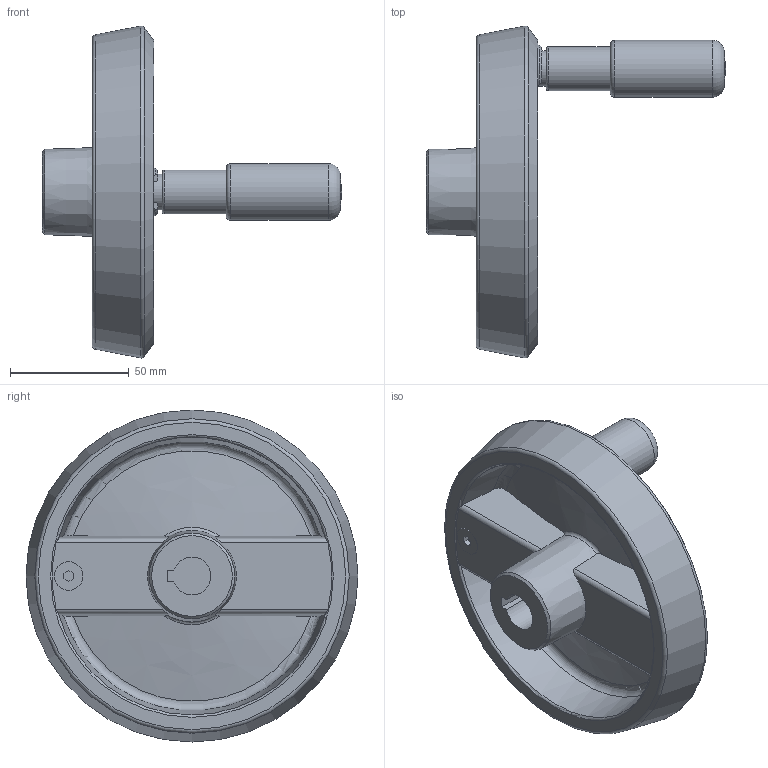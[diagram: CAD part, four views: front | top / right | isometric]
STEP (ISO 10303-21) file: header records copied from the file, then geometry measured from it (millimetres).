
FILE_DESCRIPTION( ( 'STEP AP203' ), '1' );
FILE_NAME( 'C:/Temp/Ganter_Step_05_03_2020/data/1_3/gn_923_7/gn_923_7_b/Handwheel with retractable handle GN 923.7-140-B16-R-SW (activated).stp', '2020-03-05T10:40:03', ( 'License CC BY-ND 4.0' ), ( 'CADENAS' ), ' ', 'PARTsolutions', ' ' );
FILE_SCHEMA( ( 'CONFIG_CONTROL_DESIGN' ) );
Length unit declared in the file: millimetre
Products named in the file (3): Handwheel with retractable handle GN 923.7-140-B16-R-SW (activated); _Umleggriff-Handrad GN 923.7-140-B16-R-SW-1; _Umleggriff-Handrad GN 923.7-140-B16-R-SW (90)-2
Assembly tree (2 placements, depth 2):
  Handwheel with retractable handle GN 923.7-140-B16-R-SW (activated)
    _Umleggriff-Handrad GN 923.7-140-B16-R-SW-1
    _Umleggriff-Handrad GN 923.7-140-B16-R-SW (90)-2
Bounding box: 126.2 x 140 x 140 mm (x, y, z)
Volume: 218592.1 mm3; surface area: 65852.8 mm2
Topology: 2 solids, 2 shells, 116 faces, 284 edges, 180 vertices
Faces by surface type: plane 50, cylinder 28, torus 15, cone 14, bspline 7, sphere 2
Full cylindrical faces by diameter (mm): 4 x2, 5 x1, 8 x1, 12 x1, 15 x1, 18.5 x1, 20 x1, 23 x2, 24 x1
Entity records: 3846 total; most frequent: CARTESIAN_POINT 1207, DIRECTION 519, ORIENTED_EDGE 500, EDGE_CURVE 250, AXIS2_PLACEMENT_3D 218, VERTEX_POINT 174, EDGE_LOOP 153, FACE_OUTER_BOUND 134
